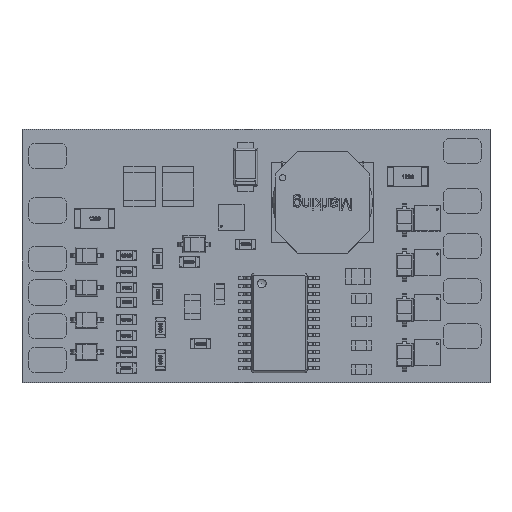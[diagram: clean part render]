
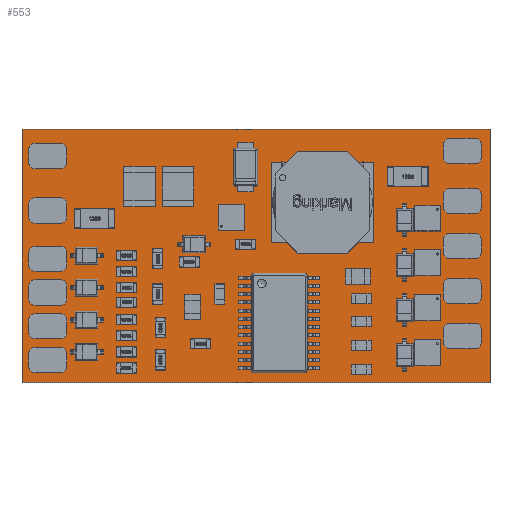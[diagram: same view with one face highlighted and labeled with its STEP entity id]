
A CAD part, top view. The second image highlights one B-rep face of the part: STEP entity #553.
In plain terms, the highlighted planar face has unit normal (0, 0, 1).
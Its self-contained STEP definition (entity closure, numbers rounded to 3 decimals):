
#424 = VERTEX_POINT('',#425);
#425 = CARTESIAN_POINT('',(0.,0.,1.591));
#431 = EDGE_CURVE('',#424,#432,#434,.T.);
#432 = VERTEX_POINT('',#433);
#433 = CARTESIAN_POINT('',(0.,20.,1.591));
#434 = LINE('',#435,#436);
#435 = CARTESIAN_POINT('',(0.,0.,1.591));
#436 = VECTOR('',#437,1.);
#437 = DIRECTION('',(0.,1.,0.));
#462 = EDGE_CURVE('',#432,#463,#465,.T.);
#463 = VERTEX_POINT('',#464);
#464 = CARTESIAN_POINT('',(37.,20.,1.591));
#465 = LINE('',#466,#467);
#466 = CARTESIAN_POINT('',(0.,20.,1.591));
#467 = VECTOR('',#468,1.);
#468 = DIRECTION('',(1.,0.,0.));
#493 = EDGE_CURVE('',#463,#494,#496,.T.);
#494 = VERTEX_POINT('',#495);
#495 = CARTESIAN_POINT('',(37.,0.,1.591));
#496 = LINE('',#497,#498);
#497 = CARTESIAN_POINT('',(37.,20.,1.591));
#498 = VECTOR('',#499,1.);
#499 = DIRECTION('',(0.,-1.,0.));
#524 = EDGE_CURVE('',#494,#424,#525,.T.);
#525 = LINE('',#526,#527);
#526 = CARTESIAN_POINT('',(37.,0.,1.591));
#527 = VECTOR('',#528,1.);
#528 = DIRECTION('',(-1.,0.,0.));
#553 = ADVANCED_FACE('',(#554),#560,.T.);
#554 = FACE_BOUND('',#555,.F.);
#555 = EDGE_LOOP('',(#556,#557,#558,#559));
#556 = ORIENTED_EDGE('',*,*,#431,.T.);
#557 = ORIENTED_EDGE('',*,*,#462,.T.);
#558 = ORIENTED_EDGE('',*,*,#493,.T.);
#559 = ORIENTED_EDGE('',*,*,#524,.T.);
#560 = PLANE('',#561);
#561 = AXIS2_PLACEMENT_3D('',#562,#563,#564);
#562 = CARTESIAN_POINT('',(0.,0.,1.591));
#563 = DIRECTION('',(0.,0.,1.));
#564 = DIRECTION('',(1.,0.,0.));
